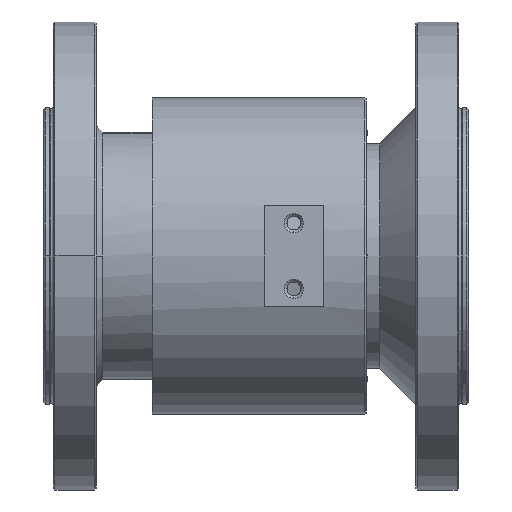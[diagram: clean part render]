
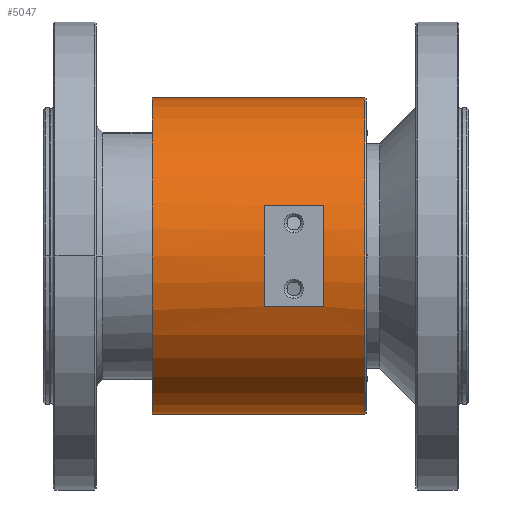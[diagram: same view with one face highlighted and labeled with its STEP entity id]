
A CAD part, front view. The second image highlights one B-rep face of the part: STEP entity #5047.
In plain terms, the highlighted cylindrical face has radius 48 mm (diameter 96 mm), a partial arc.
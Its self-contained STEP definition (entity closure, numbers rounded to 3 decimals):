
#108 = VECTOR ( 'NONE', #18620, 1000. ) ;
#110 = VERTEX_POINT ( 'NONE', #15397 ) ;
#200 = ORIENTED_EDGE ( 'NONE', *, *, #20168, .T. ) ;
#250 = EDGE_CURVE ( 'NONE', #846, #19675, #24573, .T. ) ;
#351 = DIRECTION ( 'NONE',  ( 1., 0., 0. ) ) ;
#432 = AXIS2_PLACEMENT_3D ( 'NONE', #6697, #23182, #24665 ) ;
#846 = VERTEX_POINT ( 'NONE', #11035 ) ;
#968 = ORIENTED_EDGE ( 'NONE', *, *, #9647, .T. ) ;
#1423 = ORIENTED_EDGE ( 'NONE', *, *, #12072, .T. ) ;
#1594 = CARTESIAN_POINT ( 'NONE',  ( 28., 0., 0. ) ) ;
#1660 = CARTESIAN_POINT ( 'NONE',  ( 27.5, 0., 0. ) ) ;
#1779 = DIRECTION ( 'NONE',  ( 0., 0., -1. ) ) ;
#3091 = ORIENTED_EDGE ( 'NONE', *, *, #3793, .T. ) ;
#3569 = EDGE_CURVE ( 'NONE', #6841, #110, #21762, .T. ) ;
#3793 = EDGE_CURVE ( 'NONE', #19675, #13639, #7954, .T. ) ;
#3812 = CARTESIAN_POINT ( 'NONE',  ( -37., 0., 0. ) ) ;
#3927 = AXIS2_PLACEMENT_3D ( 'NONE', #1594, #25083, #11437 ) ;
#5047 = ADVANCED_FACE ( 'NONE', ( #25458, #9095 ), #17049, .T. ) ;
#5542 = AXIS2_PLACEMENT_3D ( 'NONE', #6236, #10161, #14215 ) ;
#6236 = CARTESIAN_POINT ( 'NONE',  ( 15., 0., 0. ) ) ;
#6609 = DIRECTION ( 'NONE',  ( -1., 0., 0. ) ) ;
#6697 = CARTESIAN_POINT ( 'NONE',  ( -3., 0., 0. ) ) ;
#6841 = VERTEX_POINT ( 'NONE', #16365 ) ;
#7680 = LINE ( 'NONE', #24463, #10367 ) ;
#7954 = CIRCLE ( 'NONE', #432, 48. ) ;
#8042 = CARTESIAN_POINT ( 'NONE',  ( 23., -45.5, -15.289 ) ) ;
#8128 = DIRECTION ( 'NONE',  ( 0., 0., -1. ) ) ;
#8465 = CIRCLE ( 'NONE', #5542, 48. ) ;
#8747 = EDGE_CURVE ( 'NONE', #6841, #19521, #10886, .T. ) ;
#9095 = FACE_BOUND ( 'NONE', #14263, .T. ) ;
#9449 = VECTOR ( 'NONE', #6609, 1000. ) ;
#9647 = EDGE_CURVE ( 'NONE', #20472, #110, #24676, .T. ) ;
#9882 = ORIENTED_EDGE ( 'NONE', *, *, #250, .T. ) ;
#10161 = DIRECTION ( 'NONE',  ( 1., 0., 0. ) ) ;
#10367 = VECTOR ( 'NONE', #351, 1000. ) ;
#10886 = CIRCLE ( 'NONE', #20477, 48. ) ;
#11035 = CARTESIAN_POINT ( 'NONE',  ( 15., -45.5, -15.289 ) ) ;
#11437 = DIRECTION ( 'NONE',  ( 0., 0., -1. ) ) ;
#11707 = VECTOR ( 'NONE', #19047, 1000. ) ;
#12072 = EDGE_CURVE ( 'NONE', #20069, #846, #8465, .T. ) ;
#12517 = EDGE_CURVE ( 'NONE', #19521, #20472, #22568, .T. ) ;
#12754 = CARTESIAN_POINT ( 'NONE',  ( -3., -45.5, -15.289 ) ) ;
#13235 = ORIENTED_EDGE ( 'NONE', *, *, #12517, .T. ) ;
#13439 = CARTESIAN_POINT ( 'NONE',  ( 27.5, 0., -48. ) ) ;
#13639 = VERTEX_POINT ( 'NONE', #17611 ) ;
#14215 = DIRECTION ( 'NONE',  ( 0., 0., -1. ) ) ;
#14263 = EDGE_LOOP ( 'NONE', ( #1423, #9882, #3091, #200 ) ) ;
#15292 = CARTESIAN_POINT ( 'NONE',  ( 15., -45.5, 15.289 ) ) ;
#15397 = CARTESIAN_POINT ( 'NONE',  ( 27.5, 0., 48. ) ) ;
#16013 = CARTESIAN_POINT ( 'NONE',  ( -37., 0., -48. ) ) ;
#16365 = CARTESIAN_POINT ( 'NONE',  ( -37., 0., 48. ) ) ;
#17049 = CYLINDRICAL_SURFACE ( 'NONE', #3927, 48. ) ;
#17611 = CARTESIAN_POINT ( 'NONE',  ( -3., -45.5, 15.289 ) ) ;
#17936 = DIRECTION ( 'NONE',  ( 1., 0., 0. ) ) ;
#18620 = DIRECTION ( 'NONE',  ( 1., 0., 0. ) ) ;
#18781 = AXIS2_PLACEMENT_3D ( 'NONE', #1660, #19723, #1779 ) ;
#19047 = DIRECTION ( 'NONE',  ( 1., 0., 0. ) ) ;
#19521 = VERTEX_POINT ( 'NONE', #16013 ) ;
#19675 = VERTEX_POINT ( 'NONE', #12754 ) ;
#19723 = DIRECTION ( 'NONE',  ( -1., 0., 0. ) ) ;
#20069 = VERTEX_POINT ( 'NONE', #15292 ) ;
#20168 = EDGE_CURVE ( 'NONE', #13639, #20069, #7680, .T. ) ;
#20472 = VERTEX_POINT ( 'NONE', #13439 ) ;
#20477 = AXIS2_PLACEMENT_3D ( 'NONE', #3812, #17936, #8128 ) ;
#20478 = CARTESIAN_POINT ( 'NONE',  ( 28., 0., -48. ) ) ;
#21762 = LINE ( 'NONE', #23862, #11707 ) ;
#22099 = ORIENTED_EDGE ( 'NONE', *, *, #3569, .F. ) ;
#22568 = LINE ( 'NONE', #20478, #108 ) ;
#23182 = DIRECTION ( 'NONE',  ( -1., 0., 0. ) ) ;
#23862 = CARTESIAN_POINT ( 'NONE',  ( 28., 0., 48. ) ) ;
#24356 = ORIENTED_EDGE ( 'NONE', *, *, #8747, .T. ) ;
#24463 = CARTESIAN_POINT ( 'NONE',  ( 23., -45.5, 15.289 ) ) ;
#24573 = LINE ( 'NONE', #8042, #9449 ) ;
#24665 = DIRECTION ( 'NONE',  ( 0., 0., 1. ) ) ;
#24676 = CIRCLE ( 'NONE', #18781, 48. ) ;
#25083 = DIRECTION ( 'NONE',  ( 1., 0., 0. ) ) ;
#25458 = FACE_OUTER_BOUND ( 'NONE', #25481, .T. ) ;
#25481 = EDGE_LOOP ( 'NONE', ( #22099, #24356, #13235, #968 ) ) ;
